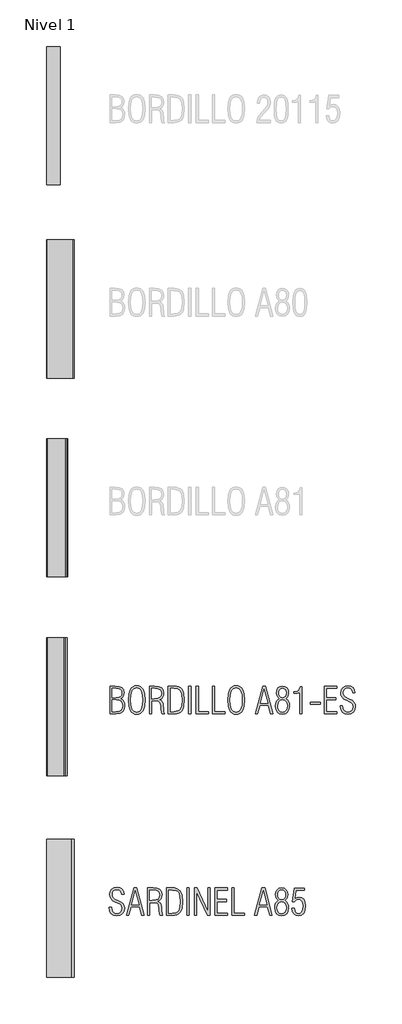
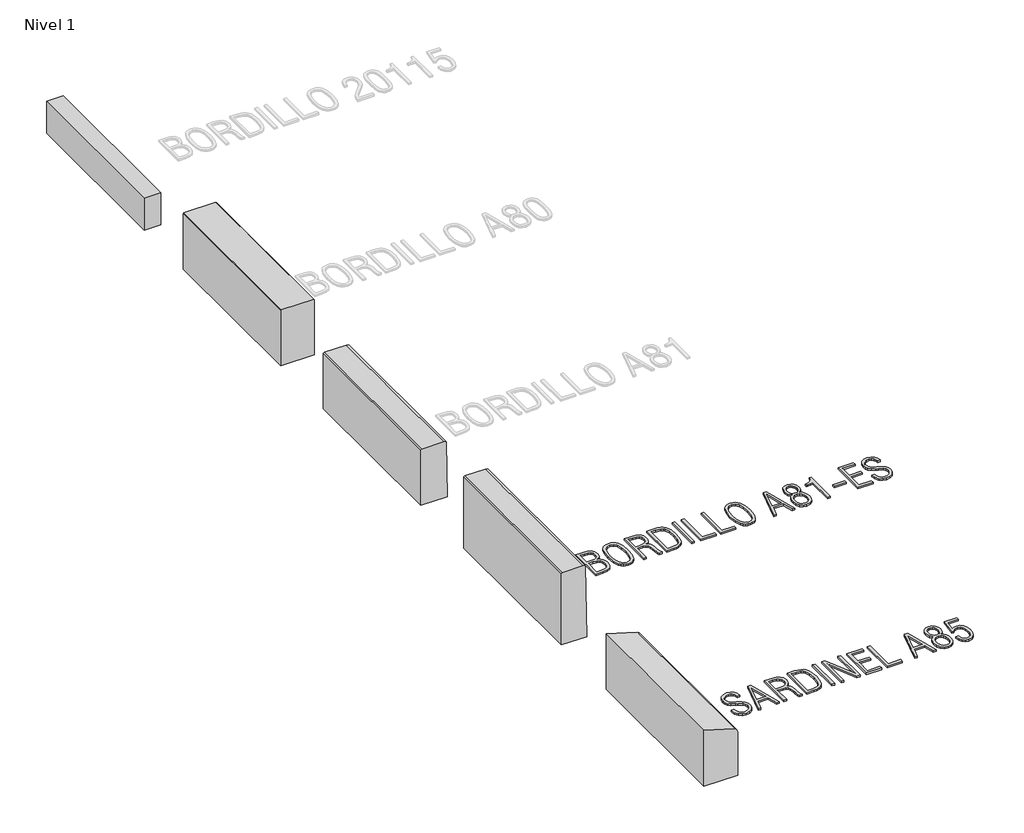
# One storey, part 1 of 2: 5 railings, 2 proxies.
"""IFC4 building model written with IfcOpenShell, lengths in millimetres."""

from ifc_helpers import new_model, si_unit, origin, origin_with_axes, place, context, project, spatial, polyline, outline, extrude, transform, mapped, element, save
from components import railing_72f3de1c, railing_4209f9cf, railing_1ba426a0, railing_255e2991, sardinel_a85_titan_80x35x20_d4344859

model = new_model("IFC4")

# Units and contexts
model_context = context("Model", 3, world=origin())
ifc_project = project(units=[si_unit("LENGTHUNIT", "METRE", prefix="MILLI")], contexts=[model_context])

# Site, building, storey
site = spatial("IfcSite", under=ifc_project)
building = spatial("IfcBuilding", under=site)
storey = spatial("IfcBuildingStorey", under=building, Name="Nivel 1", Elevation=0.0)

# Proxies
placement = place(None, origin())
element("IfcBuildingElementProxy", 1, Name="200mm", ObjectType="200mm", at=placement, inside=storey, context=model_context, shape_type="SweptSolid", body=[
    extrude(outline(polyline([(-2302.7763693, 2065.0152287), (-2302.7763693, 2265.5078512), (-2266.9524607, 2265.5078512), (-2237.2360485, 2262.7351616), (-2217.4103698, 2254.4170925), (-2206.250136, 2239.833629), (-2202.530058, 2218.264756), (-2204.1153544, 2202.992857), (-2208.8712435, 2190.7273368), (-2216.8861483, 2181.2660859), (-2228.2484917, 2174.4069948), (-2213.8355581, 2166.2026123), (-2203.8437698, 2155.5350204), (-2198.007858, 2141.9368407), (-2196.0625541, 2124.940695), (-2199.9721097, 2098.3127686), (-2211.7007765, 2079.6681674), (-2231.6022462, 2068.6784634), (-2260.0302103, 2065.0152287), (-2302.7763693, 2065.0152287)]), holes=[polyline([(-2286.6076094, 2081.1839886), (-2262.2028874, 2081.1839886), (-2239.2192479, 2083.741937), (-2223.8273464, 2091.415782), (-2215.1303221, 2104.9255388), (-2212.2313139, 2124.9912224), (-2215.1808494, 2142.9726519), (-2224.0294559, 2155.484493), (-2239.130825, 2162.8172782), (-2260.8386483, 2165.26154), (-2286.6076094, 2165.26154), (-2286.6076094, 2081.1839886)]), polyline([(-2286.6076094, 2181.4302999), (-2261.6470863, 2181.4302999), (-2242.2256267, 2183.5650814), (-2228.9306113, 2189.9694262), (-2221.2567662, 2201.0349212), (-2218.6988179, 2217.1531537), (-2221.2567662, 2232.1345203), (-2228.9306113, 2242.012622), (-2242.8698507, 2247.507474), (-2264.2239824, 2249.3390914), (-2286.6076094, 2249.3390914), (-2286.6076094, 2181.4302999)])]), origin_with_axes(), (0.0, 0.0, 1.0), 10.0),
    extrude(outline(polyline([(-2170.1925383, 2165.4636495), (-2166.573515, 2211.6898813), (-2155.7164454, 2243.7558165), (-2147.4567987, 2254.6870982), (-2137.1539512, 2262.4951565), (-2124.807903, 2267.1799915), (-2110.4186541, 2268.7416032), (-2095.9851937, 2267.1847285), (-2083.6075659, 2262.5141043), (-2073.2857707, 2254.7297306), (-2065.019808, 2243.8316075), (-2054.1627384, 2211.7846202), (-2050.5437152, 2165.4636495), (-2054.1816861, 2119.0921514), (-2065.095599, 2086.893582), (-2073.3852464, 2075.9070359), (-2083.7023047, 2068.0595031), (-2096.046774, 2063.3509833), (-2110.4186541, 2061.7814768), (-2124.7463227, 2063.3509833), (-2137.0592123, 2068.0595031), (-2147.3573229, 2075.9070359), (-2155.6406544, 2086.893582), (-2166.5545673, 2119.0921514), (-2170.1925383, 2165.4636495)]), holes=[polyline([(-2154.0237784, 2165.26154), (-2151.3521434, 2126.4944118), (-2143.3372386, 2099.3233161), (-2129.7390589, 2083.2935065), (-2110.3175993, 2077.9502366), (-2090.8771919, 2083.2619269), (-2077.3232237, 2099.1969977), (-2069.3651622, 2126.3365138), (-2066.712475, 2165.26154), (-2069.3651622, 2204.1865662), (-2077.3232237, 2231.3260823), (-2090.8771919, 2247.2611531), (-2110.3175993, 2252.5728433), (-2129.7390589, 2247.2295735), (-2143.3372386, 2231.1997639), (-2151.3521434, 2204.0286682), (-2154.0237784, 2165.26154)])]), origin_with_axes(), (0.0, 0.0, 1.0), 10.0),
    extrude(outline(polyline([(-2018.2061954, 2065.0152287), (-2018.2061954, 2265.5078512), (-1979.1485348, 2265.5078512), (-1950.2847721, 2262.5014724), (-1930.2885636, 2253.4823361), (-1918.61674, 2238.1093823), (-1914.7261322, 2216.0415515), (-1916.595645, 2198.8243486), (-1922.2041836, 2185.1693256), (-1931.6906982, 2174.8364775), (-1945.1941391, 2167.5857992), (-1933.402313, 2162.1983179), (-1925.4126719, 2154.0191991), (-1920.5052006, 2141.4568306), (-1917.9598842, 2122.9196001), (-1917.2019735, 2105.1339642), (-1914.4103361, 2079.1628936), (-1908.2586282, 2065.0152287), (-1926.8527021, 2065.0152287), (-1931.1222652, 2077.1544305), (-1933.4212608, 2101.9507396), (-1934.128644, 2115.2899665), (-1937.0023885, 2137.6230661), (-1942.8951435, 2150.558074), (-1953.2974668, 2156.7350455), (-1969.6999158, 2158.794036), (-2002.0374355, 2158.794036), (-2002.0374355, 2065.0152287), (-2018.2061954, 2065.0152287)]), holes=[polyline([(-2002.0374355, 2174.9627959), (-1984.4033818, 2174.9627959), (-1959.5565453, 2177.21758), (-1943.1225167, 2183.9819323), (-1933.9517982, 2195.9127086), (-1930.8948921, 2213.6667649), (-1933.8002161, 2229.7786815), (-1942.5161882, 2240.8252287), (-1957.6112414, 2247.2106257), (-1979.6538086, 2249.3390914), (-2002.0374355, 2249.3390914), (-2002.0374355, 2174.9627959)])]), origin_with_axes(), (0.0, 0.0, 1.0), 10.0),
    extrude(outline(polyline([(-1882.3886124, 2065.0152287), (-1882.3886124, 2265.5078512), (-1840.6024736, 2265.5078512), (-1821.5615483, 2264.1120325), (-1805.5680552, 2259.9245763), (-1792.6219945, 2252.9454827), (-1782.723366, 2243.1747517), (-1775.3953177, 2229.9397375), (-1770.1609975, 2212.5677945), (-1765.9735413, 2165.4131221), (-1770.1799452, 2118.2837134), (-1775.4379502, 2100.867559), (-1782.799157, 2087.5504378), (-1792.7214702, 2077.6912839), (-1805.6627941, 2070.649031), (-1821.6231285, 2066.4236793), (-1840.6024736, 2065.0152287), (-1882.3886124, 2065.0152287)]), holes=[polyline([(-1866.2198525, 2081.1839886), (-1841.7140758, 2081.1839886), (-1812.8882086, 2085.5103951), (-1802.5111491, 2090.9184031), (-1794.8246722, 2098.4896144), (-1785.3128939, 2123.7722495), (-1782.1423012, 2165.0089031), (-1785.3128939, 2206.5613528), (-1794.8246722, 2231.9829382), (-1802.5111491, 2239.5762552), (-1812.8882086, 2245.0000531), (-1841.7140758, 2249.3390914), (-1866.2198525, 2249.3390914), (-1866.2198525, 2081.1839886)])]), origin_with_axes(), (0.0, 0.0, 1.0), 10.0),
    extrude(outline(polyline([(-1733.6360215, 2065.0152287), (-1733.6360215, 2265.5078512), (-1717.4672617, 2265.5078512), (-1717.4672617, 2065.0152287), (-1733.6360215, 2065.0152287)])), origin_with_axes(), (0.0, 0.0, 1.0), 10.0),
    extrude(outline(polyline([(-1678.6622379, 2065.0152287), (-1678.6622379, 2265.5078512), (-1662.4934781, 2265.5078512), (-1662.4934781, 2081.1839886), (-1588.1171826, 2081.1839886), (-1588.1171826, 2065.0152287), (-1678.6622379, 2065.0152287)])), origin_with_axes(), (0.0, 0.0, 1.0), 10.0),
    extrude(outline(polyline([(-1562.2471668, 2065.0152287), (-1562.2471668, 2265.5078512), (-1546.0784069, 2265.5078512), (-1546.0784069, 2081.1839886), (-1471.7021115, 2081.1839886), (-1471.7021115, 2065.0152287), (-1562.2471668, 2065.0152287)])), origin_with_axes(), (0.0, 0.0, 1.0), 10.0),
    extrude(outline(polyline([(-1449.0658477, 2165.4636495), (-1445.4468245, 2211.6898813), (-1434.5897548, 2243.7558165), (-1426.3301081, 2254.6870982), (-1416.0272606, 2262.4951565), (-1403.6812124, 2267.1799915), (-1389.2919635, 2268.7416032), (-1374.8585031, 2267.1847285), (-1362.4808753, 2262.5141043), (-1352.1590801, 2254.7297306), (-1343.8931174, 2243.8316075), (-1333.0360478, 2211.7846202), (-1329.4170246, 2165.4636495), (-1333.0549955, 2119.0921514), (-1343.9689085, 2086.893582), (-1352.2585559, 2075.9070359), (-1362.5756142, 2068.0595031), (-1374.9200834, 2063.3509833), (-1389.2919635, 2061.7814768), (-1403.6196322, 2063.3509833), (-1415.9325218, 2068.0595031), (-1426.2306323, 2075.9070359), (-1434.5139638, 2086.893582), (-1445.4278767, 2119.0921514), (-1449.0658477, 2165.4636495)]), holes=[polyline([(-1432.8970878, 2165.26154), (-1430.2254529, 2126.4944118), (-1422.2105481, 2099.3233161), (-1408.6123684, 2083.2935065), (-1389.1909087, 2077.9502366), (-1369.7505014, 2083.2619269), (-1356.1965331, 2099.1969977), (-1348.2384716, 2126.3365138), (-1345.5857845, 2165.26154), (-1348.2384716, 2204.1865662), (-1356.1965331, 2231.3260823), (-1369.7505014, 2247.2611531), (-1389.1909087, 2252.5728433), (-1408.6123684, 2247.2295735), (-1422.2105481, 2231.1997639), (-1430.2254529, 2204.0286682), (-1432.8970878, 2165.26154)])]), origin_with_axes(), (0.0, 0.0, 1.0), 10.0),
    extrude(outline(polyline([(-1248.5732252, 2065.0152287), (-1195.0142081, 2265.5078512), (-1175.4601141, 2265.5078512), (-1122.4568981, 2065.0152287), (-1139.2825139, 2065.0152287), (-1156.0576023, 2126.4565163), (-1215.9830686, 2126.4565163), (-1233.0613212, 2065.0152287), (-1248.5732252, 2065.0152287)]), holes=[polyline([(-1213.1535356, 2142.6252762), (-1159.4429364, 2142.6252762), (-1186.1719175, 2243.3263338), (-1213.1535356, 2142.6252762)])]), origin_with_axes(), (0.0, 0.0, 1.0), 10.0),
    extrude(outline(polyline([(-1076.0222409, 2173.8006663), (-1091.4330901, 2190.8789189), (-1096.5868823, 2215.3341682), (-1093.6752424, 2236.2903969), (-1084.9403225, 2252.1686243), (-1071.1147696, 2262.1730445), (-1052.9312307, 2265.5078512), (-1034.6529529, 2262.1730445), (-1020.8463478, 2252.1686243), (-1012.1682712, 2236.2903969), (-1009.275579, 2215.3341682), (-1014.3283164, 2191.1315558), (-1029.9918026, 2173.8006663), (-1018.1305014, 2166.0131347), (-1009.6292706, 2154.7771098), (-1004.5133739, 2140.2062781), (-1002.808075, 2122.4143263), (-1006.0734066, 2096.8348429), (-1015.8694014, 2077.6975998), (-1031.6276263, 2065.7605075), (-1052.7796485, 2061.7814768), (-1073.906407, 2065.7605075), (-1089.7909504, 2077.6975998), (-1099.7385273, 2096.8348429), (-1103.0543863, 2122.4143263), (-1101.3554033, 2140.2062781), (-1096.2584544, 2154.7771098), (-1087.8014351, 2166.0131347), (-1076.0222409, 2173.8006663)]), holes=[polyline([(-1025.4443389, 2216.0415515), (-1027.2380607, 2230.0881616), (-1032.6192261, 2240.5978555), (-1041.272039, 2247.1537824), (-1052.8807033, 2249.3390914), (-1064.4072606, 2247.1348346), (-1073.1169168, 2240.5220645), (-1078.592821, 2229.9934228), (-1080.4181224, 2216.0415515), (-1078.592821, 2201.5465109), (-1073.1169168, 2190.6010184), (-1064.4072606, 2183.7229795), (-1052.8807033, 2181.4302999), (-1041.3351982, 2183.7103476), (-1032.6697534, 2190.550491), (-1027.2506925, 2201.4833517), (-1025.4443389, 2216.0415515)]), polyline([(-1018.9768349, 2122.2627442), (-1021.2947782, 2139.8589024), (-1028.2486081, 2153.5391891), (-1039.0172549, 2162.3309523), (-1052.7796485, 2165.26154), (-1066.6746765, 2162.3499), (-1077.5380621, 2153.6149801), (-1084.5487353, 2140.0168004), (-1086.8856264, 2122.5153811), (-1084.6497901, 2104.0602575), (-1077.9422811, 2089.9252244), (-1067.4578509, 2080.9439836), (-1053.8912508, 2077.9502366), (-1039.1372574, 2080.8492448), (-1028.1222897, 2089.5462691), (-1021.2631986, 2103.5234041), (-1018.9768349, 2122.2627442)])]), origin_with_axes(), (0.0, 0.0, 1.0), 10.0),
    extrude(outline(polyline([(-928.4317796, 2065.0152287), (-928.4317796, 2216.0920789), (-943.8678925, 2214.4246755), (-959.7082245, 2213.7678196), (-966.2009921, 2213.818347), (-970.4705553, 2214.1215112), (-970.4705553, 2223.4690756), (-950.8469862, 2226.3554518), (-937.3498612, 2233.1955952), (-928.9938966, 2244.8737346), (-924.7938086, 2262.2740993), (-912.2630197, 2262.2740993), (-912.2630197, 2065.0152287), (-928.4317796, 2065.0152287)])), origin_with_axes(), (0.0, 0.0, 1.0), 10.0),
    extrude(outline(polyline([(-850.8217322, 2132.9240202), (-850.8217322, 2149.0927801), (-779.6791887, 2149.0927801), (-779.6791887, 2132.9240202), (-850.8217322, 2132.9240202)])), origin_with_axes(), (0.0, 0.0, 1.0), 10.0),
    extrude(outline(polyline([(-750.5754209, 2065.0152287), (-750.5754209, 2265.5078512), (-660.0303656, 2265.5078512), (-660.0303656, 2249.3390914), (-734.406661, 2249.3390914), (-734.406661, 2181.4302999), (-666.4978696, 2181.4302999), (-666.4978696, 2165.26154), (-734.406661, 2165.26154), (-734.406661, 2081.1839886), (-660.0303656, 2081.1839886), (-660.0303656, 2065.0152287), (-750.5754209, 2065.0152287)])), origin_with_axes(), (0.0, 0.0, 1.0), 10.0),
    extrude(outline(polyline([(-634.1603498, 2123.2227643), (-617.9915899, 2123.2227643), (-614.9725793, 2104.1423645), (-607.4313686, 2089.8494334), (-595.8605998, 2080.9250358), (-580.7529148, 2077.9502366), (-563.9272991, 2080.6218716), (-551.1438733, 2088.6367764), (-543.0721252, 2101.3001996), (-540.3815425, 2117.91739), (-543.3121302, 2133.6314035), (-552.9123314, 2145.6569186), (-576.5086154, 2157.3287422), (-588.1299115, 2161.8762059), (-608.0061175, 2172.291161), (-621.1495508, 2184.3356239), (-628.4823361, 2199.0454058), (-630.9265978, 2217.456318), (-627.2128358, 2237.8251659), (-616.0715497, 2254.2655104), (-599.157511, 2265.12258), (-578.1254913, 2268.7416032), (-557.0745239, 2265.3815328), (-541.0131347, 2255.3013216), (-530.8381846, 2239.3220393), (-527.4465346, 2218.264756), (-543.6152945, 2217.0015716), (-546.6153573, 2232.1218885), (-553.4933962, 2243.3263338), (-563.9083513, 2250.2612159), (-577.5191629, 2252.5728433), (-592.2794722, 2250.0022631), (-604.2228803, 2242.2905226), (-612.1240985, 2230.625015), (-614.7578379, 2216.1931336), (-612.5851608, 2202.8539067), (-606.1681843, 2191.7378843), (-594.9890026, 2183.4008675), (-575.2959584, 2174.5585769), (-568.777927, 2171.9311534), (-548.0490716, 2161.6804123), (-534.3687849, 2149.9264818), (-526.7517832, 2135.5703915), (-524.2127826, 2117.513171), (-527.9075969, 2094.3463697), (-538.9920397, 2076.6870523), (-556.4934591, 2065.5078706), (-579.4392031, 2061.7814768), (-602.227049, 2065.7605075), (-619.2547743, 2077.6975998), (-630.0550006, 2097.0369524), (-634.1603498, 2123.2227643)])), origin_with_axes(), (0.0, 0.0, 1.0), 10.0),
])
element("IfcBuildingElementProxy", 2, Name="200mm", ObjectType="200mm", at=placement, inside=storey, context=model_context, shape_type="SweptSolid", body=[
    extrude(outline(polyline([(-2309.2438732, 663.2227643), (-2293.0751133, 663.2227643), (-2290.0561027, 644.1423645), (-2282.514892, 629.8494334), (-2270.9441232, 620.9250358), (-2255.8364382, 617.9502366), (-2239.0108225, 620.6218716), (-2226.2273967, 628.6367764), (-2218.1556486, 641.3001996), (-2215.4650659, 657.91739), (-2218.3956536, 673.6314035), (-2227.9958548, 685.6569186), (-2251.5921388, 697.3287422), (-2263.2134349, 701.8762059), (-2283.0896409, 712.291161), (-2296.2330742, 724.3356239), (-2303.5658595, 739.0454058), (-2306.0101212, 757.456318), (-2302.2963592, 777.8251659), (-2291.1550731, 794.2655104), (-2274.2410344, 805.12258), (-2253.2090148, 808.7416032), (-2232.1580473, 805.3815328), (-2216.0966581, 795.3013216), (-2205.921708, 779.3220393), (-2202.530058, 758.264756), (-2218.6988179, 757.0015716), (-2221.6988808, 772.1218885), (-2228.5769196, 783.3263338), (-2238.9918747, 790.2612159), (-2252.6026863, 792.5728433), (-2267.3629956, 790.0022631), (-2279.3064037, 782.2905226), (-2287.207622, 770.625015), (-2289.8413614, 756.1931336), (-2287.6686842, 742.8539067), (-2281.2517077, 731.7378843), (-2270.072526, 723.4008675), (-2250.3794818, 714.5585769), (-2243.8614505, 711.9311534), (-2223.132595, 701.6804123), (-2209.4523083, 689.9264818), (-2201.8353066, 675.5703915), (-2199.296306, 657.513171), (-2202.9911203, 634.3463697), (-2214.0755631, 616.6870523), (-2231.5769825, 605.5078706), (-2254.5227265, 601.7814768), (-2277.3105724, 605.7605075), (-2294.3382977, 617.6975998), (-2305.138524, 637.0369524), (-2309.2438732, 663.2227643)])), origin_with_axes(), (0.0, 0.0, 1.0), 10.0),
    extrude(outline(polyline([(-2183.1275462, 605.0152287), (-2129.5685291, 805.5078512), (-2110.0144351, 805.5078512), (-2057.0112191, 605.0152287), (-2073.8368349, 605.0152287), (-2090.6119232, 666.4565163), (-2150.5373895, 666.4565163), (-2167.6156421, 605.0152287), (-2183.1275462, 605.0152287)]), holes=[polyline([(-2147.7078565, 682.6252762), (-2093.9972573, 682.6252762), (-2120.7262385, 783.3263338), (-2147.7078565, 682.6252762)])]), origin_with_axes(), (0.0, 0.0, 1.0), 10.0),
    extrude(outline(polyline([(-2031.1412033, 605.0152287), (-2031.1412033, 805.5078512), (-1992.0835427, 805.5078512), (-1963.21978, 802.5014724), (-1943.2235715, 793.4823361), (-1931.5517479, 778.1093823), (-1927.6611401, 756.0415515), (-1929.5306529, 738.8243486), (-1935.1391915, 725.1693256), (-1944.6257061, 714.8364775), (-1958.129147, 707.5857992), (-1946.3373209, 702.1983179), (-1938.3476798, 694.0191991), (-1933.4402085, 681.4568306), (-1930.8948921, 662.9196001), (-1930.1369814, 645.1339642), (-1927.345344, 619.1628936), (-1921.1936361, 605.0152287), (-1939.78771, 605.0152287), (-1944.0572731, 617.1544305), (-1946.3562687, 641.9507396), (-1947.0636519, 655.2899665), (-1949.9373964, 677.6230661), (-1955.8301514, 690.558074), (-1966.2324747, 696.7350455), (-1982.6349237, 698.794036), (-2014.9724434, 698.794036), (-2014.9724434, 605.0152287), (-2031.1412033, 605.0152287)]), holes=[polyline([(-2014.9724434, 714.9627959), (-1997.3383897, 714.9627959), (-1972.4915532, 717.21758), (-1956.0575246, 723.9819323), (-1946.8868061, 735.9127086), (-1943.8299, 753.6667649), (-1946.735224, 769.7786815), (-1955.4511961, 780.8252287), (-1970.5462493, 787.2106257), (-1992.5888165, 789.3390914), (-2014.9724434, 789.3390914), (-2014.9724434, 714.9627959)])]), origin_with_axes(), (0.0, 0.0, 1.0), 10.0),
    extrude(outline(polyline([(-1895.3236203, 605.0152287), (-1895.3236203, 805.5078512), (-1853.5374815, 805.5078512), (-1834.4965562, 804.1120325), (-1818.5030631, 799.9245763), (-1805.5570024, 792.9454827), (-1795.6583739, 783.1747517), (-1788.3303256, 769.9397375), (-1783.0960054, 752.5677945), (-1778.9085492, 705.4131221), (-1783.1149531, 658.2837134), (-1788.3729581, 640.867559), (-1795.7341649, 627.5504378), (-1805.6564781, 617.6912839), (-1818.597802, 610.649031), (-1834.5581364, 606.4236793), (-1853.5374815, 605.0152287), (-1895.3236203, 605.0152287)]), holes=[polyline([(-1879.1548604, 621.1839886), (-1854.6490838, 621.1839886), (-1825.8232165, 625.5103951), (-1815.446157, 630.9184031), (-1807.7596801, 638.4896144), (-1798.2479018, 663.7722495), (-1795.0773091, 705.0089031), (-1798.2479018, 746.5613528), (-1807.7596801, 771.9829382), (-1815.446157, 779.5762552), (-1825.8232165, 785.0000531), (-1854.6490838, 789.3390914), (-1879.1548604, 789.3390914), (-1879.1548604, 621.1839886)])]), origin_with_axes(), (0.0, 0.0, 1.0), 10.0),
    extrude(outline(polyline([(-1746.5710294, 605.0152287), (-1746.5710294, 805.5078512), (-1730.4022696, 805.5078512), (-1730.4022696, 605.0152287), (-1746.5710294, 605.0152287)])), origin_with_axes(), (0.0, 0.0, 1.0), 10.0),
    extrude(outline(polyline([(-1691.5972459, 605.0152287), (-1691.5972459, 805.5078512), (-1672.0936792, 805.5078512), (-1594.5846866, 630.6326077), (-1594.5846866, 805.5078512), (-1578.4159267, 805.5078512), (-1578.4159267, 605.0152287), (-1598.3237123, 605.0152287), (-1675.428486, 776.4546108), (-1675.428486, 605.0152287), (-1691.5972459, 605.0152287)])), origin_with_axes(), (0.0, 0.0, 1.0), 10.0),
    extrude(outline(polyline([(-1542.844655, 605.0152287), (-1542.844655, 805.5078512), (-1452.2995997, 805.5078512), (-1452.2995997, 789.3390914), (-1526.6758951, 789.3390914), (-1526.6758951, 721.4302999), (-1458.7671036, 721.4302999), (-1458.7671036, 705.26154), (-1526.6758951, 705.26154), (-1526.6758951, 621.1839886), (-1452.2995997, 621.1839886), (-1452.2995997, 605.0152287), (-1542.844655, 605.0152287)])), origin_with_axes(), (0.0, 0.0, 1.0), 10.0),
    extrude(outline(polyline([(-1419.9620799, 605.0152287), (-1419.9620799, 805.5078512), (-1403.79332, 805.5078512), (-1403.79332, 621.1839886), (-1329.4170246, 621.1839886), (-1329.4170246, 605.0152287), (-1419.9620799, 605.0152287)])), origin_with_axes(), (0.0, 0.0, 1.0), 10.0),
    extrude(outline(polyline([(-1255.0407291, 605.0152287), (-1201.481712, 805.5078512), (-1181.9276181, 805.5078512), (-1128.9244021, 605.0152287), (-1145.7500178, 605.0152287), (-1162.5251062, 666.4565163), (-1222.4505725, 666.4565163), (-1239.5288251, 605.0152287), (-1255.0407291, 605.0152287)]), holes=[polyline([(-1219.6210395, 682.6252762), (-1165.9104403, 682.6252762), (-1192.6394215, 783.3263338), (-1219.6210395, 682.6252762)])]), origin_with_axes(), (0.0, 0.0, 1.0), 10.0),
    extrude(outline(polyline([(-1082.4897448, 713.8006663), (-1097.9005941, 730.8789189), (-1103.0543863, 755.3341682), (-1100.1427463, 776.2903969), (-1091.4078264, 792.1686243), (-1077.5822735, 802.1730445), (-1059.3987346, 805.5078512), (-1041.1204568, 802.1730445), (-1027.3138517, 792.1686243), (-1018.6357751, 776.2903969), (-1015.7430829, 755.3341682), (-1020.7958204, 731.1315558), (-1036.4593065, 713.8006663), (-1024.5980053, 706.0131347), (-1016.0967746, 694.7771098), (-1010.9808779, 680.2062781), (-1009.275579, 662.4143263), (-1012.5409106, 636.8348429), (-1022.3369053, 617.6975998), (-1038.0951303, 605.7605075), (-1059.2471525, 601.7814768), (-1080.373911, 605.7605075), (-1096.2584544, 617.6975998), (-1106.2060313, 636.8348429), (-1109.5218902, 662.4143263), (-1107.8229073, 680.2062781), (-1102.7259583, 694.7771098), (-1094.268939, 706.0131347), (-1082.4897448, 713.8006663)]), holes=[polyline([(-1031.9118428, 756.0415515), (-1033.7055646, 770.0881616), (-1039.08673, 780.5978555), (-1047.7395429, 787.1537824), (-1059.3482072, 789.3390914), (-1070.8747646, 787.1348346), (-1079.5844208, 780.5220645), (-1085.060325, 769.9934228), (-1086.8856264, 756.0415515), (-1085.060325, 741.5465109), (-1079.5844208, 730.6010184), (-1070.8747646, 723.7229795), (-1059.3482072, 721.4302999), (-1047.8027021, 723.7103476), (-1039.1372574, 730.550491), (-1033.7181965, 741.4833517), (-1031.9118428, 756.0415515)]), polyline([(-1025.4443389, 662.2627442), (-1027.7622822, 679.8589024), (-1034.7161121, 693.5391891), (-1045.4847588, 702.3309523), (-1059.2471525, 705.26154), (-1073.1421805, 702.3499), (-1084.005566, 693.6149801), (-1091.0162393, 680.0168004), (-1093.3531303, 662.5153811), (-1091.117294, 644.0602575), (-1084.409785, 629.9252244), (-1073.9253548, 620.9439836), (-1060.3587547, 617.9502366), (-1045.6047613, 620.8492448), (-1034.5897937, 629.5462691), (-1027.7307026, 643.5234041), (-1025.4443389, 662.2627442)])]), origin_with_axes(), (0.0, 0.0, 1.0), 10.0),
    extrude(outline(polyline([(-983.4055632, 656.7552604), (-967.2368033, 656.7552604), (-964.0156832, 639.8096421), (-957.9902937, 627.6767563), (-949.1480032, 620.3818665), (-937.4761796, 617.9502366), (-922.7853455, 621.5882076), (-911.757746, 632.5021205), (-904.8607593, 650.0603832), (-902.5617638, 673.6314035), (-904.7597046, 693.6907712), (-911.353527, 708.7984562), (-921.8126935, 718.272339), (-935.6066668, 721.4302999), (-953.5438848, 717.2365278), (-965.9230916, 705.26154), (-980.1718112, 705.26154), (-966.8325843, 802.2740993), (-892.8605079, 802.2740993), (-892.8605079, 786.1053394), (-955.8176166, 786.1053394), (-964.0030513, 725.3714351), (-949.4259037, 734.6179446), (-933.6360992, 737.5990597), (-914.2462192, 733.4242354), (-899.2269571, 720.8997624), (-889.6014922, 701.1751386), (-886.3930039, 675.3998616), (-889.6899151, 643.7444614), (-899.5806487, 620.6281875), (-915.7620404, 606.4931544), (-937.930926, 601.7814768), (-956.35447, 605.4194477), (-970.495819, 616.3333607), (-979.7233807, 633.7147775), (-983.4055632, 656.7552604)])), origin_with_axes(), (0.0, 0.0, 1.0), 10.0),
])

# Railings
railing_shape = railing_72f3de1c(model_context)
element("IfcRailing", 3, ObjectType="BORDILLO_20115_TITAN_100x20x10", at=placement, inside=storey, context=model_context, shape_type="MappedRepresentation", body=[
    mapped(railing_shape, transform((0.0, 0.0, 0.0), x_axis=(1.0, 0.0, 0.0), y_axis=(0.0, 1.0, 0.0), z_axis=(0.0, 0.0, 1.0))),
])
railing_2_shape = railing_4209f9cf(model_context)
element("IfcRailing", 4, ObjectType="BORDILLO_A80_TITAN_80x35x20", at=placement, inside=storey, context=model_context, shape_type="MappedRepresentation", body=[
    mapped(railing_2_shape, transform((0.0, 0.0, 0.0), x_axis=(1.0, 0.0, 0.0), y_axis=(0.0, 1.0, 0.0), z_axis=(0.0, 0.0, 1.0))),
])
railing_3_shape = railing_1ba426a0(model_context)
element("IfcRailing", 5, ObjectType="BORDILLO_A81_TITAN_80x35x15", at=placement, inside=storey, context=model_context, shape_type="MappedRepresentation", body=[
    mapped(railing_3_shape, transform((0.0, 0.0, 0.0), x_axis=(1.0, 0.0, 0.0), y_axis=(0.0, 1.0, 0.0), z_axis=(0.0, 0.0, 1.0))),
])
railing_4_shape = railing_255e2991(model_context)
element("IfcRailing", 6, ObjectType="BORDILLO_A81-ES_TITAN_80x45x15", at=placement, inside=storey, context=model_context, shape_type="MappedRepresentation", body=[
    mapped(railing_4_shape, transform((0.0, 0.0, 0.0), x_axis=(1.0, 0.0, 0.0), y_axis=(0.0, 1.0, 0.0), z_axis=(0.0, 0.0, 1.0))),
])
sardinel_a85_titan_80x35x20_shape = sardinel_a85_titan_80x35x20_d4344859(model_context)
element("IfcRailing", 7, ObjectType="SARDINEL_A85_TITAN_80x35x20", at=placement, inside=storey, context=model_context, shape_type="MappedRepresentation", body=[
    mapped(sardinel_a85_titan_80x35x20_shape, transform((0.0, 0.0, 0.0), x_axis=(1.0, 0.0, 0.0), y_axis=(0.0, 1.0, 0.0), z_axis=(0.0, 0.0, 1.0))),
])

save(model, "model.ifc")
